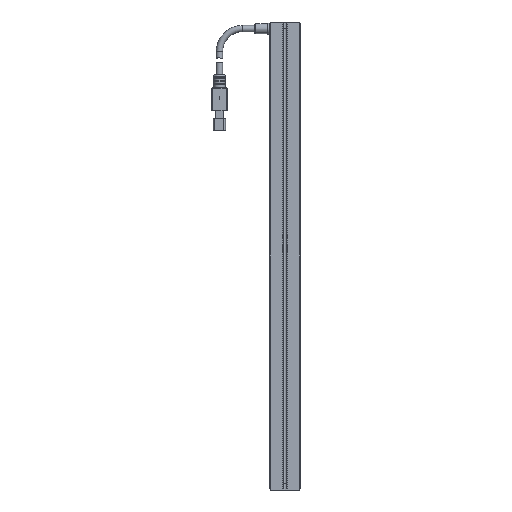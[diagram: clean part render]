
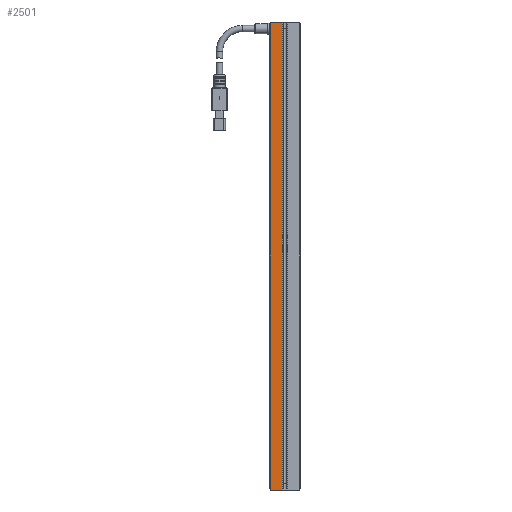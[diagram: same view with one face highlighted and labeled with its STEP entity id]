
A CAD part, front view. The second image highlights one B-rep face of the part: STEP entity #2501.
In plain terms, the highlighted planar face has unit normal (0, -1, 0).
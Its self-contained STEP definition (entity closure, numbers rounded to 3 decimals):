
#40 = VERTEX_POINT ( 'NONE', #6100 ) ;
#622 = VECTOR ( 'NONE', #5815, 1000. ) ;
#836 = VECTOR ( 'NONE', #2157, 1000. ) ;
#951 = EDGE_CURVE ( 'NONE', #15832, #11290, #5712, .T. ) ;
#2051 = ORIENTED_EDGE ( 'NONE', *, *, #951, .T. ) ;
#2157 = DIRECTION ( 'NONE',  ( -1., 0., 0. ) ) ;
#2501 = ADVANCED_FACE ( 'NONE', ( #13046 ), #13731, .T. ) ;
#2654 = CARTESIAN_POINT ( 'NONE',  ( -1.75, 0., 152. ) ) ;
#2927 = VECTOR ( 'NONE', #6422, 1000. ) ;
#3146 = CARTESIAN_POINT ( 'NONE',  ( -9.5, 0., -151.5 ) ) ;
#3394 = CARTESIAN_POINT ( 'NONE',  ( -9., 0., -152. ) ) ;
#3579 = DIRECTION ( 'NONE',  ( 0., -1., 0. ) ) ;
#4669 = CARTESIAN_POINT ( 'NONE',  ( -4.5, 0., 156.5 ) ) ;
#4869 = CARTESIAN_POINT ( 'NONE',  ( 0., 0., 152. ) ) ;
#5244 = AXIS2_PLACEMENT_3D ( 'NONE', #4869, #3579, #10852 ) ;
#5659 = EDGE_CURVE ( 'NONE', #14291, #16465, #18081, .T. ) ;
#5712 = LINE ( 'NONE', #11056, #2927 ) ;
#5815 = DIRECTION ( 'NONE',  ( -1., 0., 0. ) ) ;
#6100 = CARTESIAN_POINT ( 'NONE',  ( -9.5, 0., 151.5 ) ) ;
#6422 = DIRECTION ( 'NONE',  ( 0.707, 0., -0.707 ) ) ;
#6770 = VERTEX_POINT ( 'NONE', #17857 ) ;
#7382 = EDGE_LOOP ( 'NONE', ( #16455, #13325, #14685, #2051, #17120, #8264 ) ) ;
#7751 = CARTESIAN_POINT ( 'NONE',  ( -1.75, 0., -152. ) ) ;
#8264 = ORIENTED_EDGE ( 'NONE', *, *, #5659, .F. ) ;
#9115 = LINE ( 'NONE', #19131, #622 ) ;
#9226 = VECTOR ( 'NONE', #16633, 1000. ) ;
#9949 = VECTOR ( 'NONE', #18042, 1000. ) ;
#10852 = DIRECTION ( 'NONE',  ( 1., 0., 0. ) ) ;
#11056 = CARTESIAN_POINT ( 'NONE',  ( -156.5, 0., -4.5 ) ) ;
#11290 = VERTEX_POINT ( 'NONE', #3394 ) ;
#12069 = LINE ( 'NONE', #4669, #9949 ) ;
#12415 = CARTESIAN_POINT ( 'NONE',  ( 0., 0., 152. ) ) ;
#13046 = FACE_OUTER_BOUND ( 'NONE', #7382, .T. ) ;
#13325 = ORIENTED_EDGE ( 'NONE', *, *, #16331, .T. ) ;
#13514 = LINE ( 'NONE', #12415, #836 ) ;
#13731 = PLANE ( 'NONE',  #5244 ) ;
#14291 = VERTEX_POINT ( 'NONE', #16141 ) ;
#14676 = DIRECTION ( 'NONE',  ( 0., 0., -1. ) ) ;
#14685 = ORIENTED_EDGE ( 'NONE', *, *, #15114, .T. ) ;
#15066 = LINE ( 'NONE', #15117, #9226 ) ;
#15114 = EDGE_CURVE ( 'NONE', #40, #15832, #15066, .T. ) ;
#15117 = CARTESIAN_POINT ( 'NONE',  ( -9.5, 0., 152. ) ) ;
#15423 = EDGE_CURVE ( 'NONE', #16465, #11290, #9115, .T. ) ;
#15832 = VERTEX_POINT ( 'NONE', #3146 ) ;
#16141 = CARTESIAN_POINT ( 'NONE',  ( -1.75, 0., 152. ) ) ;
#16331 = EDGE_CURVE ( 'NONE', #6770, #40, #12069, .T. ) ;
#16455 = ORIENTED_EDGE ( 'NONE', *, *, #19125, .T. ) ;
#16465 = VERTEX_POINT ( 'NONE', #7751 ) ;
#16633 = DIRECTION ( 'NONE',  ( 0., 0., -1. ) ) ;
#17120 = ORIENTED_EDGE ( 'NONE', *, *, #15423, .F. ) ;
#17584 = VECTOR ( 'NONE', #14676, 1000. ) ;
#17857 = CARTESIAN_POINT ( 'NONE',  ( -9., 0., 152. ) ) ;
#18042 = DIRECTION ( 'NONE',  ( -0.707, 0., -0.707 ) ) ;
#18081 = LINE ( 'NONE', #2654, #17584 ) ;
#19125 = EDGE_CURVE ( 'NONE', #14291, #6770, #13514, .T. ) ;
#19131 = CARTESIAN_POINT ( 'NONE',  ( 0., 0., -152. ) ) ;
